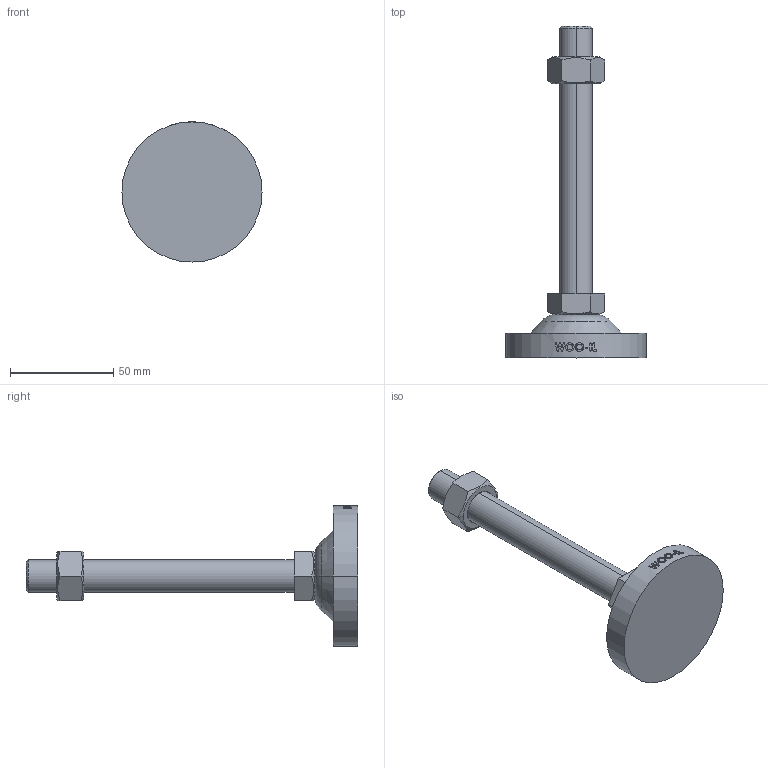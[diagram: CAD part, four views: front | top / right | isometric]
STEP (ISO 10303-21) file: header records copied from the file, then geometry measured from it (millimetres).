
FILE_DESCRIPTION (( 'STEP AP214' ), '1' );
FILE_NAME ('RB68-M16-130.step', '2021-01-18T05:50:39', ( '' ), ( '' ), 'SwSTEP 2.0', 'SolidWorks 2019', '' );
FILE_SCHEMA (( 'AUTOMOTIVE_DESIGN' ));
Length unit declared in the file: millimetre
Products named in the file (2): RB68-M16-130
Bounding box: 68 x 161 x 68 mm (x, y, z)
Volume: 83086.8 mm3; surface area: 22556.1 mm2
Topology: 2 solids, 3 shells, 128 faces, 317 edges, 206 vertices
Faces by surface type: plane 48, cylinder 42, bspline 18, cone 16, torus 4
Entity records: 5349 total; most frequent: CARTESIAN_POINT 2507, ORIENTED_EDGE 634, DIRECTION 479, EDGE_CURVE 317, VERTEX_POINT 206, AXIS2_PLACEMENT_3D 176, EDGE_LOOP 141, FACE_OUTER_BOUND 128
